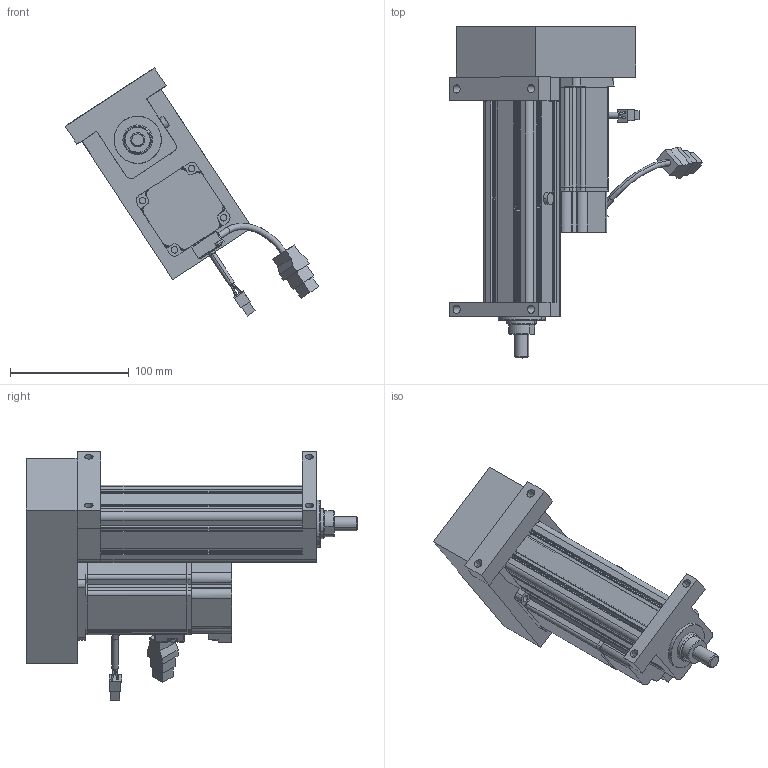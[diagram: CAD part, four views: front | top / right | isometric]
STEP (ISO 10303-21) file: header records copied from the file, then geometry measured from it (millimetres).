
FILE_DESCRIPTION (( 'STEP AP203' ), '1' );
FILE_NAME ('S1殏殿耜醱假蚾.STEP', '2024-05-27T05:02:34', ( '' ), ( '' ), 'SwSTEP 2.0', 'SolidWorks 2018', '' );
FILE_SCHEMA (( 'CONFIG_CONTROL_DESIGN' ));
Length unit declared in the file: millimetre
Products named in the file (3): S1殏殿耜醱; S1殏殿耜醱假蚾; EC
Assembly tree (2 placements, depth 2):
  S1殏殿耜醱假蚾
    EC
    S1殏殿耜醱
Bounding box: 213.96 x 280 x 209.32 mm (x, y, z)
Volume: 1271700 mm3; surface area: 205252.4 mm2
Topology: 2 solids, 9 shells, 620 faces, 1542 edges, 964 vertices
Faces by surface type: plane 329, cylinder 224, cone 38, bspline 11, torus 10, sphere 8
Entity records: 20029 total; most frequent: CARTESIAN_POINT 5127, ORIENTED_EDGE 3080, DIRECTION 2953, EDGE_CURVE 1540, AXIS2_PLACEMENT_3D 1002, VERTEX_POINT 964, VECTOR 949, LINE 949
